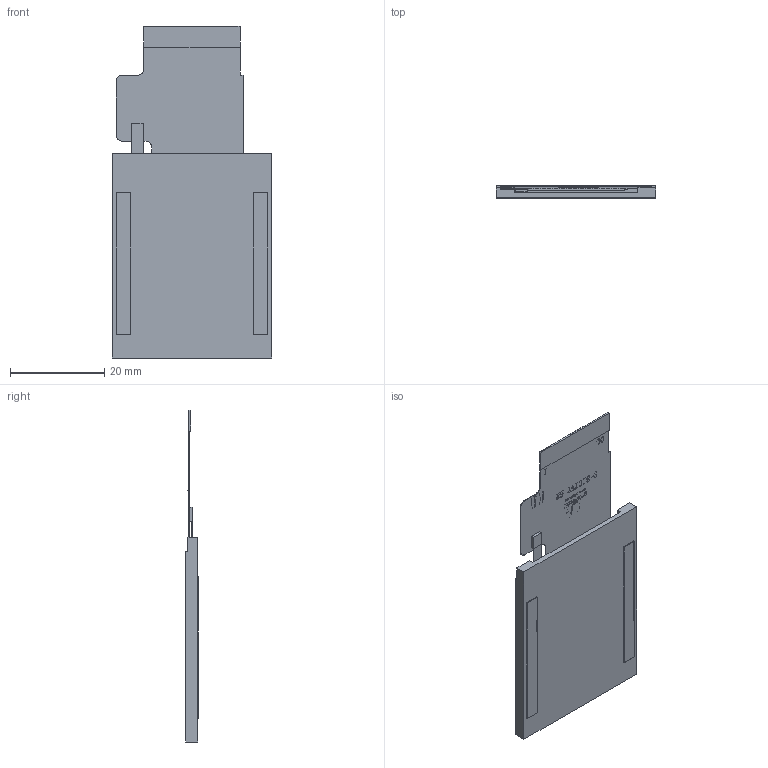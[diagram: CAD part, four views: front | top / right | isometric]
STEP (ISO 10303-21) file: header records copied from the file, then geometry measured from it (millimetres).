
FILE_DESCRIPTION (( 'STEP AP214' ), '1' );
FILE_NAME ('ER-TFT018-2.STEP', '2023-09-19T13:00:02', ( 'PC' ), ( 'Microsoft' ), 'SwSTEP 2.0', 'SolidWorks 2020', '' );
FILE_SCHEMA (( 'AUTOMOTIVE_DESIGN' ));
Length unit declared in the file: millimetre
Products named in the file (4): 4no_3ogo; FOG; ER-TFT018-2; 沺遺
Assembly tree (3 placements, depth 2):
  ER-TFT018-2
    沺遺
    FOG
    4no_3ogo
Bounding box: 33.83 x 2.7 x 70.32 mm (x, y, z)
Volume: 3758.3 mm3; surface area: 10375.2 mm2
Topology: 36 solids, 36 shells, 782 faces, 2076 edges, 1394 vertices
Faces by surface type: plane 524, bspline 252, cylinder 6
Entity records: 39694 total; most frequent: CARTESIAN_POINT 17902, ORIENTED_EDGE 4152, DIRECTION 2656, EDGE_CURVE 2076, VECTOR 1560, LINE 1560, VERTEX_POINT 1394, EDGE_LOOP 830
